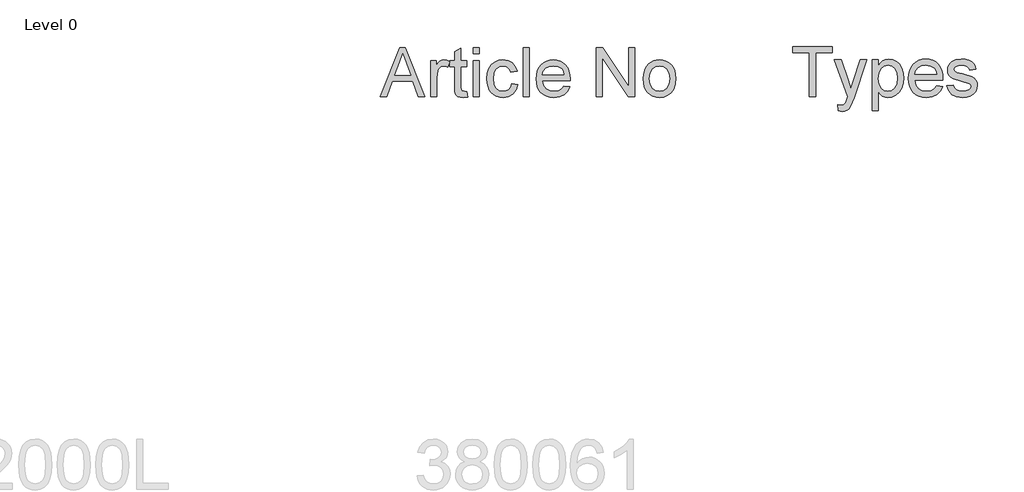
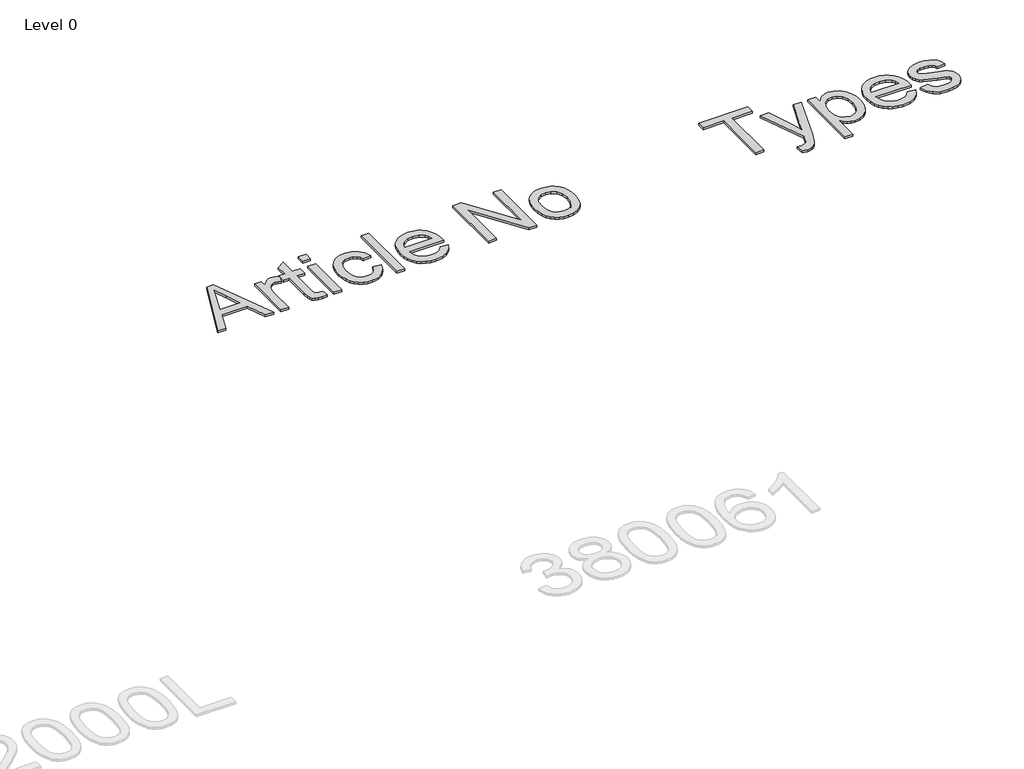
# One storey, part 37 of 37: 2 proxies.
"""IFC4 building model written with IfcOpenShell, lengths in millimetres."""

from ifc_helpers import new_model, si_unit, origin, origin_with_axes, place, context, project, spatial, polyline, outline, extrude, element, save

model = new_model("IFC4")

# Units and contexts
model_context = context("Model", 3, world=origin())
ifc_project = project(units=[si_unit("LENGTHUNIT", "METRE", prefix="MILLI")], contexts=[model_context])

# Site, building, storey
site = spatial("IfcSite", under=ifc_project)
building = spatial("IfcBuilding", under=site)
storey = spatial("IfcBuildingStorey", under=building, Name="Level 0", Elevation=0.0)

# Proxies
placement = place(None, origin())
element("IfcBuildingElementProxy", 1, Name="300mm Arial", ObjectType="300mm Arial", at=placement, inside=storey, context=model_context, shape_type="SweptSolid", body=[
    extrude(outline(polyline([(30038.1842588, 653.8274553), (30038.1842588, 917.5252695), (29939.2975785, 917.5252695), (29939.2975785, 955.1963858), (30174.7420555, 955.1963858), (30174.7420555, 917.5252695), (30075.8553751, 917.5252695), (30075.8553751, 653.8274553), (30038.1842588, 653.8274553)])), origin_with_axes(), (0.0, 0.0, 1.0), 10.0),
    extrude(outline(polyline([(30212.4131718, 569.0674436), (30207.7042822, 605.3406084), (30226.834146, 602.0296704), (30244.7132109, 606.186737), (30255.6760944, 617.7750198), (30265.9767903, 645.5133222), (30268.9198462, 654.6367957), (30188.8687241, 875.1452636), (30228.5999795, 875.1452636), (30271.0535618, 752.2726772), (30285.842418, 703.1236427), (30300.6312742, 746.5337181), (30344.2620788, 875.1452636), (30383.6990287, 875.1452636), (30306.6645389, 648.5299546), (30286.6517584, 599.38092), (30276.4062448, 583.690753), (30264.7995679, 572.81984), (30251.3166927, 566.4738756), (30235.4425847, 564.3585541), (30212.4131718, 569.0674436)])), origin_with_axes(), (0.0, 0.0, 1.0), 10.0),
    extrude(outline(polyline([(30414.8954219, 569.0674436), (30414.8954219, 875.1452636), (30452.5665382, 875.1452636), (30452.5665382, 838.2099113), (30464.8537968, 856.4292671), (30478.6125835, 869.4430927), (30494.6522385, 877.2513881), (30513.7821022, 879.8541532), (30539.2579304, 876.2121214), (30561.5331852, 865.2860262), (30579.6697675, 847.738055), (30592.7295784, 824.2303955), (30600.6206472, 796.473699), (30603.2510034, 766.1786167), (30600.2803563, 733.9613509), (30591.368415, 705.1469937), (30576.800288, 681.1978758), (30556.8610838, 663.5763282), (30533.6385329, 652.7330064), (30509.2203655, 649.1185658), (30491.9023205, 651.5373899), (30476.4420797, 658.7938623), (30463.2075249, 669.7475487), (30452.5665382, 683.2580149), (30452.5665382, 569.0674436), (30414.8954219, 569.0674436)]), holes=[polyline([(30452.5665382, 762.7205259), (30456.6408313, 728.9489587), (30468.8637106, 705.3309347), (30486.8991254, 691.4249952), (30508.4110251, 686.7896821), (30530.2724126, 691.5905421), (30548.7676799, 705.9931223), (30561.3768353, 730.475669), (30565.5798871, 765.5164291), (30561.4780029, 799.1040552), (30549.1723501, 823.0531731), (30531.1645265, 837.4005709), (30509.9561295, 842.1830369), (30488.664959, 837.0970683), (30469.9673566, 821.8391625), (30456.9167428, 796.8875662), (30452.5665382, 762.7205259)])]), origin_with_axes(), (0.0, 0.0, 1.0), 10.0),
    extrude(outline(polyline([(30800.5829056, 719.7519089), (30837.518258, 715.0430193), (30824.2101268, 687.2127464), (30802.9741386, 666.4090196), (30774.28854, 653.4411792), (30738.6315777, 649.1185658), (30715.2572754, 650.9832677), (30694.4305559, 656.5773732), (30676.1514193, 665.9008826), (30660.4198655, 678.9537956), (30647.7693234, 695.3728289), (30638.7332219, 714.794699), (30633.311561, 737.2194059), (30631.5043407, 762.6469495), (30633.3299551, 788.9367166), (30638.8067983, 812.1086838), (30647.9348703, 832.162851), (30660.7141711, 849.0992184), (30676.4043382, 862.5545023), (30694.265009, 872.1654195), (30714.2961837, 877.9319697), (30736.4978621, 879.8541532), (30757.9844699, 877.9365683), (30777.415537, 872.1838136), (30794.7910635, 862.5958891), (30810.1110493, 849.1727948), (30822.6167379, 832.2732156), (30831.5493726, 812.2558366), (30836.9089534, 789.1206576), (30838.6954803, 762.8676787), (30838.4747511, 752.7141356), (30669.175457, 752.7141356), (30675.6961653, 724.5159807), (30690.8437065, 703.7858303), (30712.705094, 691.0387191), (30739.3673416, 686.7896821), (30759.4169104, 688.7578508), (30776.302694, 694.6623568), (30790.0246924, 704.8710822), (30800.5829056, 719.7519089)]), holes=[polyline([(30669.175457, 790.3852519), (30801.024364, 790.3852519), (30795.9291984, 810.2876679), (30785.9412022, 824.5247011), (30763.9786471, 837.7684529), (30736.3507093, 842.1830369), (30710.9576546, 838.6605668), (30689.9607897, 828.0931564), (30675.3650715, 811.6212401), (30669.175457, 790.3852519)])]), origin_with_axes(), (0.0, 0.0, 1.0), 10.0),
    extrude(outline(polyline([(30862.239928, 719.7519089), (30899.9110443, 724.4607984), (30905.8523386, 708.347567), (30917.3486509, 696.5017668), (30934.4735578, 689.2177033), (30957.3006356, 686.7896821), (30979.8518019, 689.0153682), (30995.7075159, 695.6924264), (31005.0885068, 705.3677229), (31008.2155037, 716.5881237), (31005.0701127, 726.1898438), (30995.6339395, 733.5106955), (30956.8591772, 744.2528497), (30900.1317735, 762.6837377), (30885.7751787, 771.9451669), (30875.3733153, 784.2048344), (30869.054942, 798.6809909), (30866.9488176, 814.5918872), (30868.6410748, 829.1876054), (30873.7178463, 842.6612835), (30881.7192797, 854.4794926), (30892.1855224, 864.1088038), (30916.1346403, 875.2556282), (30948.5450441, 879.8541532), (30973.0643791, 878.0055461), (30994.3831407, 872.4597251), (31011.5264417, 863.7593159), (31023.5193947, 852.4469445), (31031.4656458, 837.6856795), (31036.468841, 818.6385892), (30998.7977246, 813.9296996), (30994.0428499, 825.7846969), (30984.6342678, 834.7150324), (30970.4800081, 840.3160357), (30951.4881001, 842.1830369), (30929.8566388, 840.3988092), (30915.4356645, 835.0461262), (30907.3238665, 827.3206043), (30904.6199339, 818.41786), (30909.1080942, 807.4549765), (30923.1611864, 799.1408434), (30955.6083784, 791.1210159), (31010.9010423, 773.3891038), (31025.5059575, 764.9094238), (31036.5792056, 753.3027468), (31043.5597664, 738.5322847), (31045.88662, 720.5612493), (31043.1550962, 701.9832085), (31034.9605248, 684.5088137), (31021.6156054, 669.5084254), (31003.4330378, 658.3524039), (30981.4704827, 651.4270253), (30956.7856008, 649.1185658), (30918.8017848, 653.5699379), (30891.0818765, 666.9240544), (30872.5774121, 689.0337623), (30862.239928, 719.7519089)])), origin_with_axes(), (0.0, 0.0, 1.0), 10.0),
])
element("IfcBuildingElementProxy", 2, Name="300mm Arial", ObjectType="300mm Arial", at=placement, inside=storey, context=model_context, shape_type="SweptSolid", body=[
    extrude(outline(polyline([(27467.7884533, 653.8274553), (27585.6971072, 949.2120707), (27617.1394148, 949.2120707), (27735.0480687, 653.8274553), (27696.0336456, 653.8274553), (27662.2115302, 746.1351476), (27540.5528764, 746.1351476), (27506.8028764, 653.8274553), (27467.7884533, 653.8274553)]), holes=[polyline([(27554.1105687, 783.0582246), (27648.7259533, 783.0582246), (27622.1153764, 855.6784169), (27601.418261, 912.2889938), (27583.0288379, 862.0245707), (27554.1105687, 783.0582246)])]), origin_with_axes(), (0.0, 0.0, 1.0), 10.0),
    extrude(outline(polyline([(27769.8797995, 653.8274553), (27769.8797995, 870.7505323), (27802.1874918, 870.7505323), (27802.1874918, 838.6591861), (27814.1225879, 857.2649553), (27825.1201841, 868.2264938), (27836.1538379, 873.5810611), (27848.1971072, 875.3659169), (27866.5865302, 872.5173592), (27885.2644148, 863.9716861), (27872.9326841, 830.8707246), (27859.9519148, 836.5498111), (27846.9711456, 838.44284), (27835.9465062, 836.6219265), (27826.0937418, 831.1591861), (27818.1340062, 822.4692823), (27812.7884533, 810.9668784), (27808.2992706, 790.3418784), (27806.8028764, 767.8418784), (27806.8028764, 653.8274553), (27769.8797995, 653.8274553)])), origin_with_axes(), (0.0, 0.0, 1.0), 10.0),
    extrude(outline(polyline([(27986.8028764, 684.6207246), (27991.418261, 652.7457246), (27963.7980687, 649.2120707), (27946.0757129, 650.7445226), (27932.8605687, 655.3418784), (27923.5216264, 662.427215), (27917.4278764, 671.4236092), (27914.074511, 686.8743303), (27912.9567225, 713.3226476), (27912.9567225, 833.8274553), (27885.2644148, 833.8274553), (27885.2644148, 870.7505323), (27912.9567225, 870.7505323), (27912.9567225, 923.4668784), (27949.8797995, 945.1736092), (27949.8797995, 870.7505323), (27986.8028764, 870.7505323), (27986.8028764, 833.8274553), (27949.8797995, 833.8274553), (27949.8797995, 714.4043784), (27951.8269148, 695.3659169), (27958.137011, 688.6231284), (27970.7211456, 686.1351476), (27986.8028764, 684.6207246)])), origin_with_axes(), (0.0, 0.0, 1.0), 10.0),
    extrude(outline(polyline([(28023.7259533, 912.2889938), (28023.7259533, 949.2120707), (28060.6490302, 949.2120707), (28060.6490302, 912.2889938), (28023.7259533, 912.2889938)])), origin_with_axes(), (0.0, 0.0, 1.0), 10.0),
    extrude(outline(polyline([(28023.7259533, 653.8274553), (28023.7259533, 870.7505323), (28060.6490302, 870.7505323), (28060.6490302, 653.8274553), (28023.7259533, 653.8274553)])), origin_with_axes(), (0.0, 0.0, 1.0), 10.0),
    extrude(outline(polyline([(28254.4951841, 732.2889938), (28291.418261, 727.6736092), (28281.1237898, 694.8340659), (28261.7788379, 670.0173592), (28235.2043187, 654.4133928), (28203.2211456, 649.2120707), (28182.5127622, 651.0262234), (28163.9453043, 656.4686813), (28147.5187718, 665.5394445), (28133.2331648, 678.238513), (28121.6699136, 694.3270046), (28113.4104485, 713.5660371), (28108.4547694, 735.9556104), (28106.8028764, 761.4957246), (28109.6243908, 794.3532967), (28118.0889341, 822.8298592), (28132.3317225, 845.8256525), (28152.4879725, 862.2409169), (28176.6015543, 872.0846669), (28202.7163379, 875.3659169), (28233.9152562, 870.8587053), (28258.8581648, 857.3370707), (28276.7517947, 835.5221669), (28286.8028764, 806.1351476), (28249.8797995, 801.519763), (28243.1820831, 817.6285371), (28232.7523956, 829.176013), (28219.16766, 836.1261332), (28203.0047995, 838.44284), (28179.1436216, 833.8815419), (28160.2043187, 820.1976476), (28147.8455447, 796.6519746), (28143.7259533, 762.50534), (28147.7554004, 727.8989698), (28159.8437418, 704.2721669), (28178.4404966, 690.6694025), (28201.9951841, 686.1351476), (28221.1147754, 688.9656765), (28236.7908572, 697.457263), (28248.1941023, 711.8262534), (28254.4951841, 732.2889938)])), origin_with_axes(), (0.0, 0.0, 1.0), 10.0),
    extrude(outline(polyline([(28323.7259533, 653.8274553), (28323.7259533, 949.2120707), (28360.6490302, 949.2120707), (28360.6490302, 653.8274553), (28323.7259533, 653.8274553)])), origin_with_axes(), (0.0, 0.0, 1.0), 10.0),
    extrude(outline(polyline([(28567.9086456, 718.44284), (28604.1105687, 713.8274553), (28591.0666985, 686.5498111), (28570.2523956, 666.1591861), (28542.13641, 653.4488496), (28507.1874918, 649.2120707), (28484.2773355, 651.039745), (28463.8641745, 656.5227678), (28445.9480086, 665.6611392), (28430.5288379, 678.4548592), (28418.129499, 694.547858), (28409.2728283, 713.5840659), (28403.9588259, 735.563483), (28402.1874918, 760.4861092), (28403.9768547, 786.2538375), (28409.3449437, 808.9656765), (28418.2917586, 828.621626), (28430.8172995, 845.2216861), (28446.1959052, 858.4097871), (28463.7019148, 867.8298592), (28483.3353283, 873.4819025), (28505.0961456, 875.3659169), (28526.1560915, 873.4864097), (28545.2013139, 867.847888), (28562.2318127, 858.450352), (28577.2475879, 845.2938015), (28589.5049497, 828.7297991), (28598.2602081, 809.1099073), (28603.5133632, 786.434126), (28605.2644148, 760.7024553), (28605.0480687, 750.7505323), (28439.1105687, 750.7505323), (28445.5017947, 723.1123111), (28460.3485495, 702.7938015), (28481.7758331, 690.2998111), (28507.9086456, 686.1351476), (28527.5600879, 688.0642342), (28544.1105687, 693.8514938), (28557.5600879, 703.8575034), (28567.9086456, 718.44284)]), holes=[polyline([(28439.1105687, 787.6736092), (28568.3413379, 787.6736092), (28563.3473475, 807.1808207), (28553.5576841, 821.1351476), (28532.0312418, 834.1159169), (28504.9519148, 838.44284), (28480.0630927, 834.9903159), (28459.4831648, 824.6327438), (28445.1772754, 808.4879121), (28439.1105687, 787.6736092)])]), origin_with_axes(), (0.0, 0.0, 1.0), 10.0),
    extrude(outline(polyline([(28762.1874918, 653.8274553), (28762.1874918, 949.2120707), (28801.7067225, 949.2120707), (28956.0336456, 715.1976476), (28956.0336456, 949.2120707), (28992.9567225, 949.2120707), (28992.9567225, 653.8274553), (28953.4374918, 653.8274553), (28799.1105687, 887.9139938), (28799.1105687, 653.8274553), (28762.1874918, 653.8274553)])), origin_with_axes(), (0.0, 0.0, 1.0), 10.0),
    extrude(outline(polyline([(29043.7259533, 762.2889938), (29045.722648, 790.3824433), (29051.7127322, 814.5906765), (29061.6962057, 834.9136933), (29075.6730687, 851.3514938), (29089.7445831, 861.8578039), (29105.2764341, 869.3623111), (29122.2686216, 873.8650154), (29140.7211456, 875.3659169), (29161.0914882, 873.5382426), (29179.5102081, 868.0552198), (29195.9773055, 858.9168484), (29210.4927802, 846.1231284), (29222.3399858, 830.1067522), (29230.8022754, 811.3004121), (29235.8796492, 789.704108), (29237.5721072, 765.31784), (29234.5793187, 728.0161573), (29225.6009533, 699.6207246), (29210.8984293, 678.3557005), (29190.7331648, 662.4452438), (29166.7818427, 652.520364), (29140.7211456, 649.2120707), (29120.0533271, 651.0329842), (29101.4633331, 656.4957246), (29084.9511636, 665.6002919), (29070.5168187, 678.3466861), (29058.7958151, 694.5185611), (29050.4236697, 713.8995707), (29045.4003824, 736.489715), (29043.7259533, 762.2889938)]), holes=[polyline([(29080.6490302, 762.3611092), (29084.9218668, 728.9446428), (29097.7403764, 705.1375515), (29117.0312418, 690.8857486), (29140.7211456, 686.1351476), (29164.3028764, 690.9127919), (29183.5576841, 705.2457246), (29196.3761937, 729.3683207), (29200.6490302, 763.5149553), (29196.3491504, 795.957864), (29183.449511, 819.4404361), (29164.16766, 833.692239), (29140.7211456, 838.44284), (29117.0312418, 833.7102678), (29097.7403764, 819.5125515), (29084.9218668, 795.7595467), (29080.6490302, 762.3611092)])]), origin_with_axes(), (0.0, 0.0, 1.0), 10.0),
])

save(model, "model.ifc")
